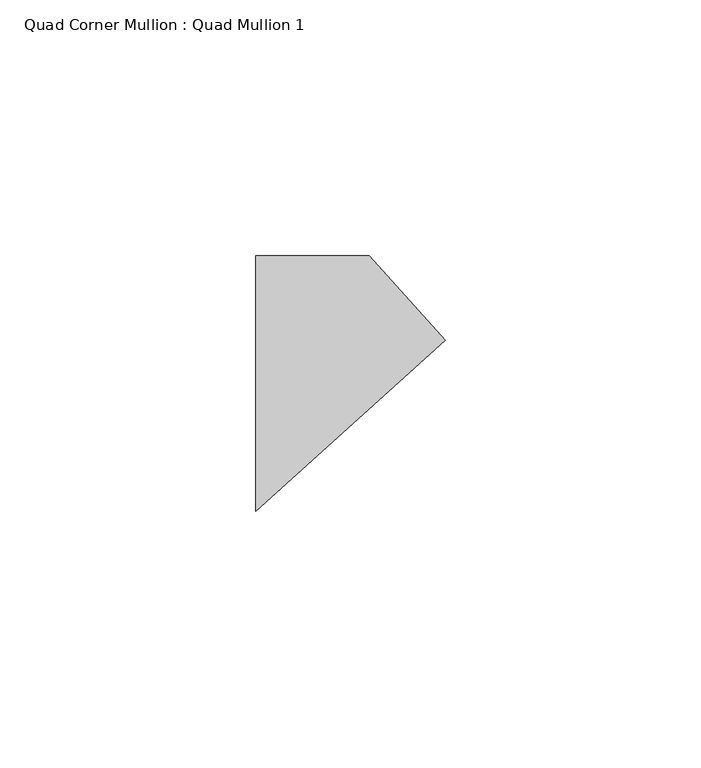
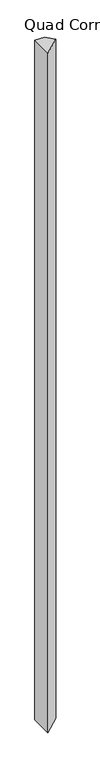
"""IFC4 building model written with IfcOpenShell, lengths in millimetres: member geometry, Quad Corner Mullion : Quad Mullion 1."""

from ifc_helpers import new_model, si_unit, frame, origin, place, context, project, spatial, polyline, outline, extrude, source, transform, mapped, element, save


def quad_corner_mullion_quad_mullion_1_48339c51(model_context):
    return source(origin(), model_context, "Body", "SweptSolid", [
        extrude(outline(polyline([(26.0311386, 8.4472476), (-11.1344587, -25.0), (-11.1344587, 25.0), (11.1344587, 25.0), (26.0311386, 8.4472476)])), frame((0.0, 0.0, -1592.7531078), z_axis=(0.0, 0.0, 1.0), x_axis=(1.0, 0.0, 0.0)), (0.0, 0.0, 1.0), 1592.7531078),
    ])


if __name__ == "__main__":
    model = new_model("IFC4")
    model_context = context("Model", 3, world=origin())
    ifc_project = project(units=[si_unit("LENGTHUNIT", "METRE", prefix="MILLI")], contexts=[model_context])
    site = spatial("IfcSite", under=ifc_project)
    building = spatial("IfcBuilding", under=site)
    placement = place(None, origin())
    quad_corner_mullion_quad_mullion_1_shape = quad_corner_mullion_quad_mullion_1_48339c51(model_context)
    element("IfcMember", 1, ObjectType="Quad Corner Mullion : Quad Mullion 1", at=placement, inside=building, context=model_context, shape_type="MappedRepresentation", body=[
        mapped(quad_corner_mullion_quad_mullion_1_shape, transform((0.0, 0.0, 0.0), x_axis=(1.0, 0.0, 0.0), y_axis=(0.0, 1.0, 0.0), z_axis=(0.0, 0.0, 1.0))),
    ])
    save(model, "model.ifc")
